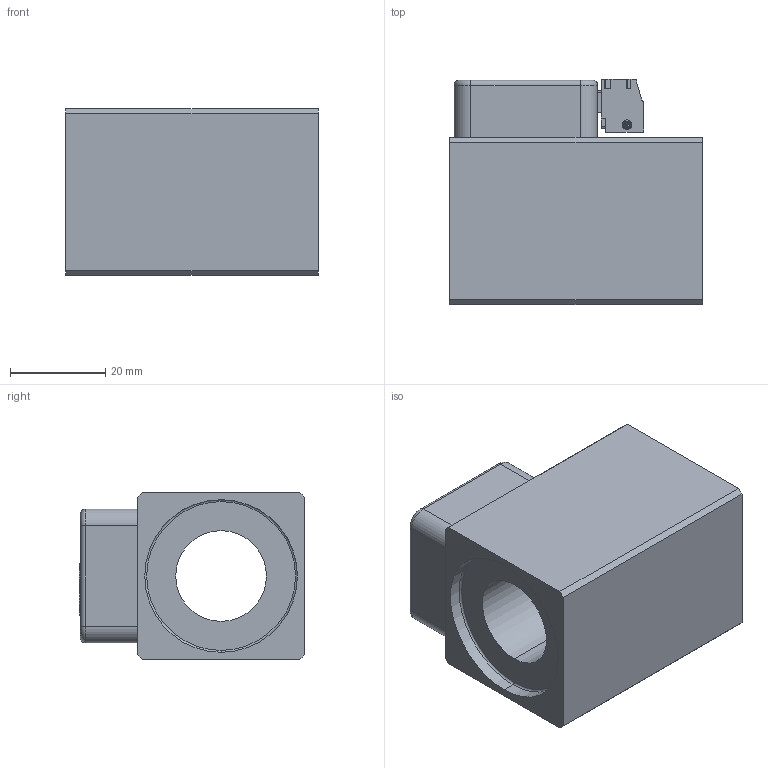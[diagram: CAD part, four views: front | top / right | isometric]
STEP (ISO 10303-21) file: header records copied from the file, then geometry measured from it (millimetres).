
FILE_DESCRIPTION (( 'STEP AP214' ), '1' );
FILE_NAME ('NXS35_19x50-M222b.STEP', '2015-07-28T14:19:19', ( '' ), ( '' ), 'SwSTEP 2.0', 'SolidWorks 2014', '' );
FILE_SCHEMA (( 'AUTOMOTIVE_DESIGN' ));
Length unit declared in the file: millimetre
Products named in the file (2): NXS35_19x50-M222b
Bounding box: 53 x 47.2 x 35 mm (x, y, z)
Volume: 58345.4 mm3; surface area: 15269.7 mm2
Topology: 1 solids, 3 shells, 439 faces, 1189 edges, 763 vertices
Faces by surface type: plane 200, cylinder 181, bspline 30, torus 14, cone 14
Entity records: 19523 total; most frequent: CARTESIAN_POINT 3965, ORIENTED_EDGE 2370, DIRECTION 2099, EDGE_CURVE 1185, VERTEX_POINT 763, LINE 725, VECTOR 725, AXIS2_PLACEMENT_3D 687
